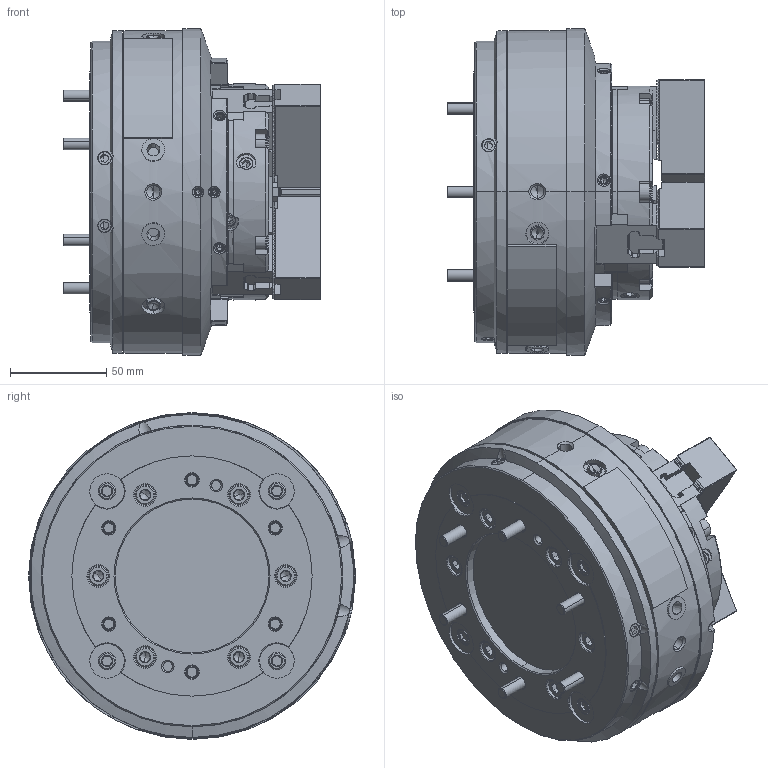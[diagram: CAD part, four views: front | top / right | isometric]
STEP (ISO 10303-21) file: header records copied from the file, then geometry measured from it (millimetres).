
FILE_DESCRIPTION (( 'STEP AP214' ), '1' );
FILE_NAME ('DEV-NRC04-HUL.STEP', '2024-10-03T04:13:45', ( '' ), ( '' ), 'SwSTEP 2.0', 'SolidWorks 2022', '' );
FILE_SCHEMA (( 'AUTOMOTIVE_DESIGN' ));
Length unit declared in the file: millimetre
Products named in the file (7): Copy of 0030106100^DEV-NRC04-クミタテ; Copy of P31487^DEV-NRC04-クミタテ; Copy of 0693000001^DEV-NRC04-クミタテ; Copy of 61P400832^DEV-NRC04-クミタテ; Part1^DEV-NRC04-クミタテ; Copy of 0030108022^DEV-NRC04-クミタテ; DEV-NRC04-HUL
Assembly tree (21 placements, depth 2):
  DEV-NRC04-HUL
    Copy of P31487^DEV-NRC04-クミタテ  x3
    Copy of 61P400832^DEV-NRC04-クミタテ  x3
    Copy of 0030106100^DEV-NRC04-クミタテ  x6
    Copy of 0030108022^DEV-NRC04-クミタテ  x6
    Copy of 0693000001^DEV-NRC04-クミタテ  x2
    Part1^DEV-NRC04-クミタテ
Bounding box: 134.2 x 170 x 170 mm (x, y, z)
Volume: 1712188.8 mm3; surface area: 189025.7 mm2
Topology: 21 solids, 51 shells, 4013 faces, 10697 edges, 6821 vertices
Faces by surface type: plane 2384, cylinder 885, cone 610, bspline 104, torus 20, sphere 10
Entity records: 102024 total; most frequent: CARTESIAN_POINT 29038, ORIENTED_EDGE 15776, DIRECTION 13777, EDGE_CURVE 7888, VECTOR 5131, LINE 5131, VERTEX_POINT 5108, AXIS2_PLACEMENT_3D 4323
